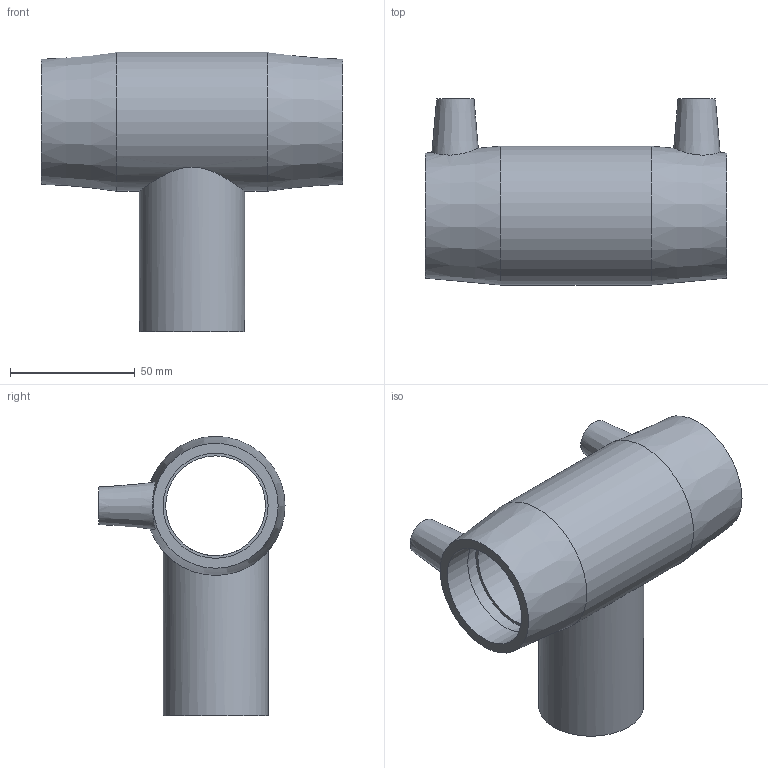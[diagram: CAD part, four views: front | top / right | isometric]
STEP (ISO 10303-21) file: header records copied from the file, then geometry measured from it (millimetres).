
FILE_DESCRIPTION(/* description */ ('PLASSON TEE 1 1/4''''IPS'),/* implementation_level */ '2;1');
FILE_NAME(/* name */ 'C:\Dropbox\KIMPROJECTS-Inventor 2019\99-16-3568-Processing Inch\ASTM ElectroFusion 2021\5904B\5904B003013.ipt.stp',/* time_stamp */ '2021-08-30T09:49:33+03:00',/* author */ ('KIM'),/* organization */ (''),/* preprocessor_version */ 'ST-DEVELOPER v17.2',/* originating_system */ 'Autodesk Inventor 2019',/* authorisation */ '');
FILE_SCHEMA (('AUTOMOTIVE_DESIGN { 1 0 10303 214 3 1 1 }'));
Length unit declared in the file: inch
Products named in the file (1): 5904B003013
Bounding box: 120.9 x 74.55 x 111.89 mm (x, y, z)
Volume: 146103.4 mm3; surface area: 54023.3 mm2
Topology: 1 solids, 1 shells, 31 faces, 70 edges, 52 vertices
Faces by surface type: plane 13, cylinder 12, cone 6
Full cylindrical faces by diameter (mm): 4.8 x2, 9.6 x2, 33.68 x1, 39.995 x1, 42.1 x5, 55.626 x1
Entity records: 1151 total; most frequent: CARTESIAN_POINT 354, DIRECTION 170, ORIENTED_EDGE 140, AXIS2_PLACEMENT_3D 76, EDGE_CURVE 70, VERTEX_POINT 52, EDGE_LOOP 46, CIRCLE 44
